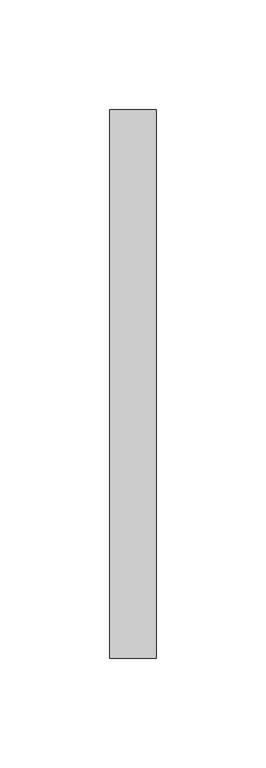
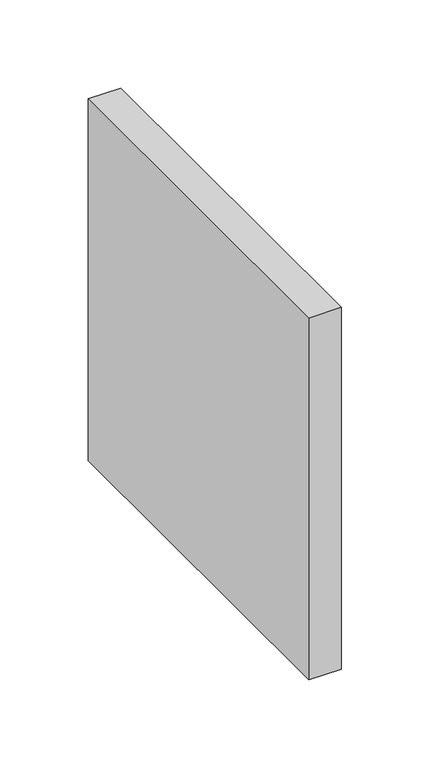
"""IFC4 building model written with IfcOpenShell, lengths in millimetres: duct fitting geometry, MEP_15.03 Injerto Conducte : Mínimo."""

from ifc_helpers import new_model, si_unit, frame, origin, place, context, project, spatial, polyline, outline, extrude, source, transform, mapped, element, save


def duct_fitting_f22c80c5(model_context):
    return source(origin(), model_context, "Body", "SweptSolid", [
        extrude(outline(polyline([(-6.1299944, -125.0), (-6.1299944, 125.0), (15.0339944, 125.0), (15.0339944, -125.0), (-6.1299944, -125.0)])), frame((0.0, 0.0, -125.0), z_axis=(0.0, 0.0, 1.0), x_axis=(1.0, 0.0, 0.0)), (0.0, 0.0, 1.0), 250.0),
    ])


if __name__ == "__main__":
    model = new_model("IFC4")
    model_context = context("Model", 3, world=origin())
    ifc_project = project(units=[si_unit("LENGTHUNIT", "METRE", prefix="MILLI")], contexts=[model_context])
    site = spatial("IfcSite", under=ifc_project)
    building = spatial("IfcBuilding", under=site)
    placement = place(None, origin())
    duct_fitting_shape = duct_fitting_f22c80c5(model_context)
    element("IfcDuctFitting", 1, ObjectType="MEP_15.03 Injerto Conducte : Mínimo", at=placement, inside=building, context=model_context, shape_type="MappedRepresentation", body=[
        mapped(duct_fitting_shape, transform((0.0, 0.0, 0.0), x_axis=(1.0, 0.0, 0.0), y_axis=(0.0, 1.0, 0.0), z_axis=(0.0, 0.0, 1.0))),
    ])
    save(model, "model.ifc")
